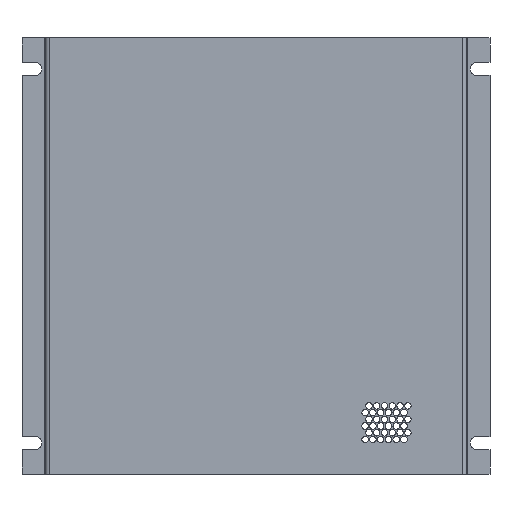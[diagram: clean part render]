
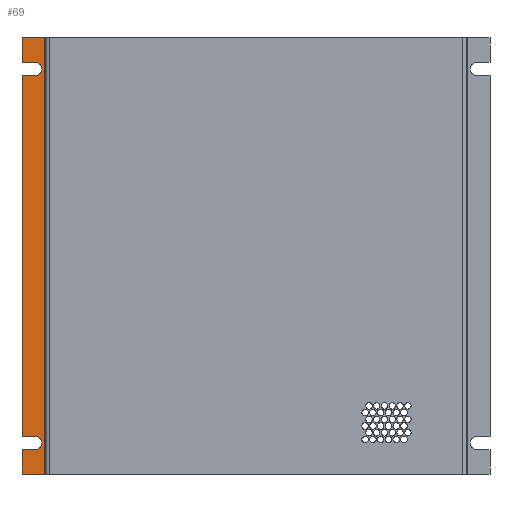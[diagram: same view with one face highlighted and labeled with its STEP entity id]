
A CAD part, front view. The second image highlights one B-rep face of the part: STEP entity #69.
In plain terms, the highlighted planar face has unit normal (0, -1, 0).
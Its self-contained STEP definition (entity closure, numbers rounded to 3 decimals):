
#69 = ADVANCED_FACE( '', ( #206 ), #207, .F. );
#206 = FACE_OUTER_BOUND( '', #462, .T. );
#207 = PLANE( '', #463 );
#462 = EDGE_LOOP( '', ( #832, #833, #834, #835, #836, #837, #838, #839, #840, #841, #842, #843 ) );
#463 = AXIS2_PLACEMENT_3D( '', #844, #845, #846 );
#832 = ORIENTED_EDGE( '', *, *, #1271, .F. );
#833 = ORIENTED_EDGE( '', *, *, #1298, .T. );
#834 = ORIENTED_EDGE( '', *, *, #1291, .F. );
#835 = ORIENTED_EDGE( '', *, *, #1295, .F. );
#836 = ORIENTED_EDGE( '', *, *, #1320, .F. );
#837 = ORIENTED_EDGE( '', *, *, #1321, .F. );
#838 = ORIENTED_EDGE( '', *, *, #1314, .F. );
#839 = ORIENTED_EDGE( '', *, *, #1322, .F. );
#840 = ORIENTED_EDGE( '', *, *, #1323, .F. );
#841 = ORIENTED_EDGE( '', *, *, #1300, .F. );
#842 = ORIENTED_EDGE( '', *, *, #1304, .F. );
#843 = ORIENTED_EDGE( '', *, *, #1307, .T. );
#844 = CARTESIAN_POINT( '', ( 0., 8.077, 0. ) );
#845 = DIRECTION( '', ( 0., 1., 0. ) );
#846 = DIRECTION( '', ( 0., 0., 1. ) );
#1271 = EDGE_CURVE( '', #1506, #1508, #1509, .T. );
#1291 = EDGE_CURVE( '', #1538, #1540, #1541, .F. );
#1295 = EDGE_CURVE( '', #1546, #1538, #1548, .T. );
#1298 = EDGE_CURVE( '', #1506, #1540, #1551, .T. );
#1300 = EDGE_CURVE( '', #1553, #1555, #1556, .T. );
#1304 = EDGE_CURVE( '', #1561, #1553, #1563, .F. );
#1307 = EDGE_CURVE( '', #1561, #1508, #1566, .T. );
#1314 = EDGE_CURVE( '', #1578, #1580, #1581, .T. );
#1320 = EDGE_CURVE( '', #1589, #1546, #1590, .T. );
#1321 = EDGE_CURVE( '', #1580, #1589, #1591, .T. );
#1322 = EDGE_CURVE( '', #1592, #1578, #1593, .T. );
#1323 = EDGE_CURVE( '', #1555, #1592, #1594, .T. );
#1506 = VERTEX_POINT( '', #1846 );
#1508 = VERTEX_POINT( '', #1849 );
#1509 = LINE( '', #1850, #1851 );
#1538 = VERTEX_POINT( '', #1894 );
#1540 = VERTEX_POINT( '', #1897 );
#1541 = CIRCLE( '', #1898, 3.962 );
#1546 = VERTEX_POINT( '', #1904 );
#1548 = LINE( '', #1907, #1908 );
#1551 = LINE( '', #1913, #1914 );
#1553 = VERTEX_POINT( '', #1916 );
#1555 = VERTEX_POINT( '', #1919 );
#1556 = LINE( '', #1920, #1921 );
#1561 = VERTEX_POINT( '', #1928 );
#1563 = CIRCLE( '', #1931, 3.962 );
#1566 = LINE( '', #1935, #1936 );
#1578 = VERTEX_POINT( '', #1951 );
#1580 = VERTEX_POINT( '', #1953 );
#1581 = LINE( '', #1954, #1955 );
#1589 = VERTEX_POINT( '', #1967 );
#1590 = LINE( '', #1968, #1969 );
#1591 = LINE( '', #1970, #1971 );
#1592 = VERTEX_POINT( '', #1972 );
#1593 = LINE( '', #1973, #1974 );
#1594 = LINE( '', #1975, #1976 );
#1846 = CARTESIAN_POINT( '', ( -143.015, 8.077, -110.338 ) );
#1849 = CARTESIAN_POINT( '', ( -143.015, 8.077, 110.338 ) );
#1850 = CARTESIAN_POINT( '', ( -143.015, 8.077, -133.35 ) );
#1851 = VECTOR( '', #2261, 1000. );
#1894 = CARTESIAN_POINT( '', ( -134.938, 8.077, -118.262 ) );
#1897 = CARTESIAN_POINT( '', ( -134.938, 8.077, -110.338 ) );
#1898 = AXIS2_PLACEMENT_3D( '', #2289, #2290, #2291 );
#1904 = CARTESIAN_POINT( '', ( -143.015, 8.077, -118.262 ) );
#1907 = CARTESIAN_POINT( '', ( 0., 8.077, -118.262 ) );
#1908 = VECTOR( '', #2297, 1000. );
#1913 = CARTESIAN_POINT( '', ( 0., 8.077, -110.338 ) );
#1914 = VECTOR( '', #2300, 1000. );
#1916 = CARTESIAN_POINT( '', ( -134.938, 8.077, 118.262 ) );
#1919 = CARTESIAN_POINT( '', ( -143.015, 8.077, 118.262 ) );
#1920 = CARTESIAN_POINT( '', ( 0., 8.077, 118.262 ) );
#1921 = VECTOR( '', #2302, 1000. );
#1928 = CARTESIAN_POINT( '', ( -134.938, 8.077, 110.338 ) );
#1931 = AXIS2_PLACEMENT_3D( '', #2306, #2307, #2308 );
#1935 = CARTESIAN_POINT( '', ( 0., 8.077, 110.338 ) );
#1936 = VECTOR( '', #2313, 1000. );
#1951 = CARTESIAN_POINT( '', ( -129.324, 8.077, 133.35 ) );
#1953 = CARTESIAN_POINT( '', ( -129.324, 8.077, -133.35 ) );
#1954 = CARTESIAN_POINT( '', ( -129.324, 8.077, 133.35 ) );
#1955 = VECTOR( '', #2326, 1000. );
#1967 = CARTESIAN_POINT( '', ( -143.015, 8.077, -133.35 ) );
#1968 = CARTESIAN_POINT( '', ( -143.015, 8.077, -133.35 ) );
#1969 = VECTOR( '', #2334, 1000. );
#1970 = CARTESIAN_POINT( '', ( -128.382, 8.077, -133.35 ) );
#1971 = VECTOR( '', #2335, 1000. );
#1972 = CARTESIAN_POINT( '', ( -143.015, 8.077, 133.35 ) );
#1973 = CARTESIAN_POINT( '', ( -143.015, 8.077, 133.35 ) );
#1974 = VECTOR( '', #2336, 1000. );
#1975 = CARTESIAN_POINT( '', ( -143.015, 8.077, -133.35 ) );
#1976 = VECTOR( '', #2337, 1000. );
#2261 = DIRECTION( '', ( 0., 0., 1. ) );
#2289 = CARTESIAN_POINT( '', ( -134.938, 8.077, -114.3 ) );
#2290 = DIRECTION( '', ( 0., 1., 0. ) );
#2291 = DIRECTION( '', ( 0., 0., 1. ) );
#2297 = DIRECTION( '', ( 1., 0., 0. ) );
#2300 = DIRECTION( '', ( 1., 0., 0. ) );
#2302 = DIRECTION( '', ( -1., 0., 0. ) );
#2306 = CARTESIAN_POINT( '', ( -134.938, 8.077, 114.3 ) );
#2307 = DIRECTION( '', ( 0., 1., 0. ) );
#2308 = DIRECTION( '', ( 0., 0., 1. ) );
#2313 = DIRECTION( '', ( -1., 0., 0. ) );
#2326 = DIRECTION( '', ( 0., 0., -1. ) );
#2334 = DIRECTION( '', ( 0., 0., 1. ) );
#2335 = DIRECTION( '', ( -1., 0., 0. ) );
#2336 = DIRECTION( '', ( 1., 0., 0. ) );
#2337 = DIRECTION( '', ( 0., 0., 1. ) );
